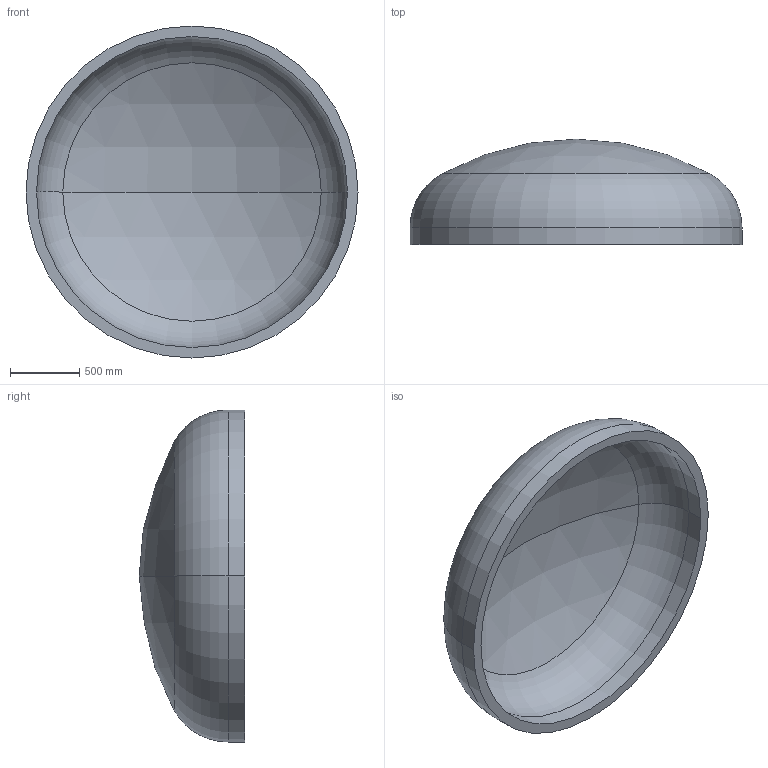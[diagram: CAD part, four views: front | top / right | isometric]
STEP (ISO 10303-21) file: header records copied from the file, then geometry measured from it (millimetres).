
FILE_DESCRIPTION (( 'STEP AP203' ), '1' );
FILE_NAME ('DIN 28013 Korbbogenform_-_Boden DIN 28013 - 2400 x 120 - I - s=76.step', '2016-07-01T15:34:10', ( '' ), ( '' ), 'SwSTEP 2.0', 'SolidWorks 2013', '' );
FILE_SCHEMA (( 'CONFIG_CONTROL_DESIGN' ));
Length unit declared in the file: millimetre
Products named in the file (1): DIN 28013 Korbbogenform_-_Boden DIN 28013 - 2400 x 120 - I - s=76
Bounding box: 2400 x 761.75 x 2400 mm (x, y, z)
Volume: 523593489.5 mm3; surface area: 14345749.7 mm2
Topology: 1 solids, 1 shells, 13 faces, 24 edges, 14 vertices
Faces by surface type: torus 4, cylinder 4, sphere 4, plane 1
Entity records: 407 total; most frequent: DIRECTION 72, CARTESIAN_POINT 52, ORIENTED_EDGE 48, AXIS2_PLACEMENT_3D 34, EDGE_CURVE 24, CIRCLE 20, VERTEX_POINT 14, EDGE_LOOP 14
